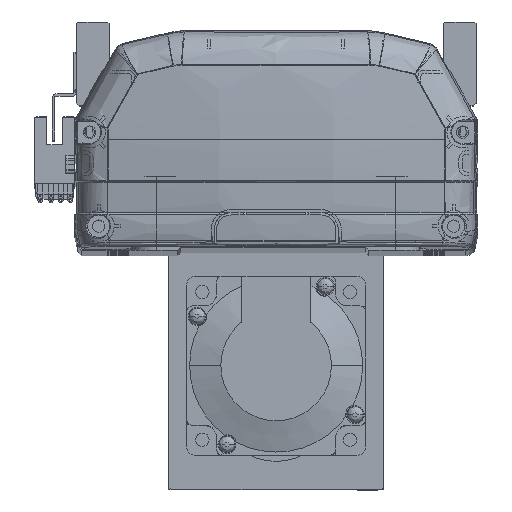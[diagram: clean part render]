
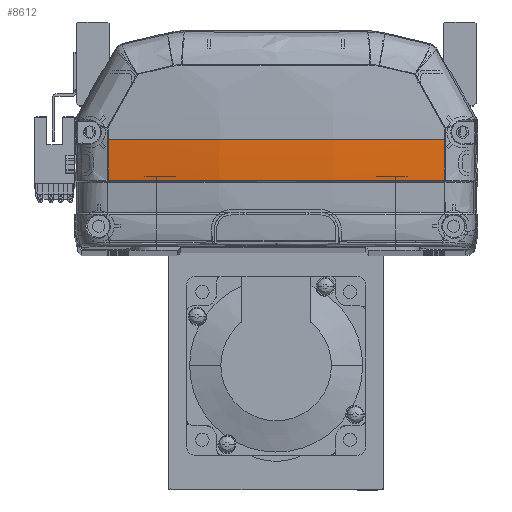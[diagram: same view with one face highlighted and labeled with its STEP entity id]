
A CAD part, top view. The second image highlights one B-rep face of the part: STEP entity #8612.
In plain terms, the highlighted free-form (B-spline) face has degree [3, 3] with [4, 4] control points.
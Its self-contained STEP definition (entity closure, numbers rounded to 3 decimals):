
#2197 = CARTESIAN_POINT ( 'NONE',  ( 56.647, 35.969, -5.158 ) ) ;
#2418 = CARTESIAN_POINT ( 'NONE',  ( 38.071, 22.225, -7.566 ) ) ;
#2813 = CARTESIAN_POINT ( 'NONE',  ( 47.432, 22.225, -6.377 ) ) ;
#3000 = CARTESIAN_POINT ( 'NONE',  ( 4.761, 22.225, -9.537 ) ) ;
#3958 = DIRECTION ( 'NONE',  ( 0., 0., -1. ) ) ;
#4349 = DIRECTION ( 'NONE',  ( 0., 1., 0. ) ) ;
#4883 = ORIENTED_EDGE ( 'NONE', *, *, #30346, .F. ) ;
#5168 = CARTESIAN_POINT ( 'NONE',  ( 56.661, 22.225, -4.818 ) ) ;
#7254 = CARTESIAN_POINT ( 'NONE',  ( 19.295, 26.549, -11.419 ) ) ;
#7329 = CARTESIAN_POINT ( 'NONE',  ( 19.121, 22.225, -9.064 ) ) ;
#8612 = ADVANCED_FACE ( 'NONE', ( #40550 ), #24806, .T. ) ;
#8830 = AXIS2_PLACEMENT_3D ( 'NONE', #44212, #4349, #3958 ) ;
#10390 = ORIENTED_EDGE ( 'NONE', *, *, #31149, .F. ) ;
#10520 = EDGE_CURVE ( 'NONE', #11388, #49531, #57176, .T. ) ;
#10905 = EDGE_CURVE ( 'NONE', #49531, #46482, #51675, .T. ) ;
#11388 = VERTEX_POINT ( 'NONE', #15143 ) ;
#11429 = CARTESIAN_POINT ( 'NONE',  ( -19.295, 31.274, -11.535 ) ) ;
#11562 = VERTEX_POINT ( 'NONE', #47859 ) ;
#11689 = CARTESIAN_POINT ( 'NONE',  ( -56.661, 22.225, -4.818 ) ) ;
#11823 = CARTESIAN_POINT ( 'NONE',  ( 57.335, 22.148, -4.7 ) ) ;
#12192 = CARTESIAN_POINT ( 'NONE',  ( -19.295, 21.828, -11.186 ) ) ;
#13856 = AXIS2_PLACEMENT_3D ( 'NONE', #54684, #19407, #28268 ) ;
#14536 = CARTESIAN_POINT ( 'NONE',  ( -56.652, 26.814, -5.045 ) ) ;
#15143 = CARTESIAN_POINT ( 'NONE',  ( 56.661, 22.225, -4.818 ) ) ;
#15808 = CARTESIAN_POINT ( 'NONE',  ( 56.661, 22.225, -4.818 ) ) ;
#16008 = CARTESIAN_POINT ( 'NONE',  ( 11.954, 22.225, -9.367 ) ) ;
#16632 = CARTESIAN_POINT ( 'NONE',  ( -56.647, 36., -5.158 ) ) ;
#16702 = CARTESIAN_POINT ( 'NONE',  ( 57.335, 36., -5.042 ) ) ;
#19407 = DIRECTION ( 'NONE',  ( 0., 0., -1. ) ) ;
#20703 = CARTESIAN_POINT ( 'NONE',  ( 2.357, 22.225, -9.562 ) ) ;
#21032 = CARTESIAN_POINT ( 'NONE',  ( 19.295, 31.274, -11.535 ) ) ;
#21442 = B_SPLINE_CURVE_WITH_KNOTS ( 'NONE', 3,
 ( #51359, #50534, #14536, #28944 ),
 .UNSPECIFIED., .F., .F.,
 ( 4, 4 ),
 ( 0., 1. ),
 .UNSPECIFIED. ) ;
#22183 = CARTESIAN_POINT ( 'NONE',  ( 56.647, 36., -5.158 ) ) ;
#24121 = ORIENTED_EDGE ( 'NONE', *, *, #10520, .F. ) ;
#24806 =( BOUNDED_SURFACE ( )  B_SPLINE_SURFACE ( 3, 3, ( 
 ( #11823, #43182, #39055, #16702 ),
 ( #56284, #7254, #21032, #25379 ),
 ( #12192, #34776, #11429, #34403 ),
 ( #29501, #52008, #56661, #52388 ) ),
 .UNSPECIFIED., .F., .F., .F. ) 
 B_SPLINE_SURFACE_WITH_KNOTS ( ( 4, 4 ),
 ( 4, 4 ),
 ( 0., 1. ),
 ( 0., 1. ),
 .UNSPECIFIED. ) 
 GEOMETRIC_REPRESENTATION_ITEM ( )  RATIONAL_B_SPLINE_SURFACE ( (
 ( 1., 1., 1., 1.),
 ( 0.99, 0.99, 0.99, 0.99),
 ( 0.99, 0.99, 0.99, 0.99),
 ( 1., 1., 1., 1.) ) ) 
 REPRESENTATION_ITEM ( '' )  SURFACE ( )  );
#25114 = CIRCLE ( 'NONE', #8830, 340.733 ) ;
#25379 = CARTESIAN_POINT ( 'NONE',  ( 19.295, 36., -11.535 ) ) ;
#25659 = EDGE_LOOP ( 'NONE', ( #4883, #48658, #24121, #41642, #10390 ) ) ;
#28268 = DIRECTION ( 'NONE',  ( -1., 0., 0. ) ) ;
#28382 = CARTESIAN_POINT ( 'NONE',  ( 56.647, 31.387, -5.158 ) ) ;
#28944 = CARTESIAN_POINT ( 'NONE',  ( -56.661, 22.225, -4.818 ) ) ;
#29501 = CARTESIAN_POINT ( 'NONE',  ( -57.335, 22.148, -4.7 ) ) ;
#30346 = EDGE_CURVE ( 'NONE', #46482, #39412, #25114, .T. ) ;
#31149 = EDGE_CURVE ( 'NONE', #39412, #11562, #21442, .T. ) ;
#32540 = EDGE_CURVE ( 'NONE', #11388, #11562, #35008, .T. ) ;
#33895 = CARTESIAN_POINT ( 'NONE',  ( -38.235, 22.225, -7.93 ) ) ;
#34073 = CARTESIAN_POINT ( 'NONE',  ( 8.363, 22.225, -9.48 ) ) ;
#34277 = CARTESIAN_POINT ( 'NONE',  ( 23.877, 22.225, -8.763 ) ) ;
#34403 = CARTESIAN_POINT ( 'NONE',  ( -19.295, 36., -11.535 ) ) ;
#34776 = CARTESIAN_POINT ( 'NONE',  ( -19.295, 26.549, -11.419 ) ) ;
#35008 = B_SPLINE_CURVE_WITH_KNOTS ( 'NONE', 3,
 ( #15808, #2813, #2418, #34277, #7329, #16008, #34073, #3000, #20703, #56724, #56909, #33895, #11689 ),
 .UNSPECIFIED., .F., .F.,
 ( 4, 2, 2, 1, 2, 2, 4 ),
 ( 0., 0.25, 0.375, 0.438, 0.469, 0.5, 1. ),
 .UNSPECIFIED. ) ;
#39055 = CARTESIAN_POINT ( 'NONE',  ( 57.335, 31.38, -5.042 ) ) ;
#39412 = VERTEX_POINT ( 'NONE', #16632 ) ;
#40550 = FACE_OUTER_BOUND ( 'NONE', #25659, .T. ) ;
#41642 = ORIENTED_EDGE ( 'NONE', *, *, #32540, .T. ) ;
#43182 = CARTESIAN_POINT ( 'NONE',  ( 57.335, 26.762, -4.928 ) ) ;
#44212 = CARTESIAN_POINT ( 'NONE',  ( 0., 36., 330.833 ) ) ;
#46482 = VERTEX_POINT ( 'NONE', #22183 ) ;
#47859 = CARTESIAN_POINT ( 'NONE',  ( -56.661, 22.225, -4.818 ) ) ;
#48658 = ORIENTED_EDGE ( 'NONE', *, *, #10905, .F. ) ;
#49531 = VERTEX_POINT ( 'NONE', #2197 ) ;
#50507 = CARTESIAN_POINT ( 'NONE',  ( 56.652, 26.806, -5.044 ) ) ;
#50534 = CARTESIAN_POINT ( 'NONE',  ( -56.647, 31.405, -5.158 ) ) ;
#51359 = CARTESIAN_POINT ( 'NONE',  ( -56.647, 36., -5.158 ) ) ;
#51675 = CIRCLE ( 'NONE', #13856, 6395.966 ) ;
#52008 = CARTESIAN_POINT ( 'NONE',  ( -57.335, 26.762, -4.928 ) ) ;
#52388 = CARTESIAN_POINT ( 'NONE',  ( -57.335, 36., -5.042 ) ) ;
#54607 = CARTESIAN_POINT ( 'NONE',  ( 56.647, 35.969, -5.158 ) ) ;
#54684 = CARTESIAN_POINT ( 'NONE',  ( 6452.613, 35.969, -5.158 ) ) ;
#56284 = CARTESIAN_POINT ( 'NONE',  ( 19.295, 21.828, -11.186 ) ) ;
#56661 = CARTESIAN_POINT ( 'NONE',  ( -57.335, 31.38, -5.042 ) ) ;
#56724 = CARTESIAN_POINT ( 'NONE',  ( 1.152, 22.225, -9.568 ) ) ;
#56909 = CARTESIAN_POINT ( 'NONE',  ( -19.28, 22.225, -9.565 ) ) ;
#57176 = B_SPLINE_CURVE_WITH_KNOTS ( 'NONE', 3,
 ( #5168, #50507, #28382, #54607 ),
 .UNSPECIFIED., .F., .F.,
 ( 4, 4 ),
 ( 0., 1. ),
 .UNSPECIFIED. ) ;
